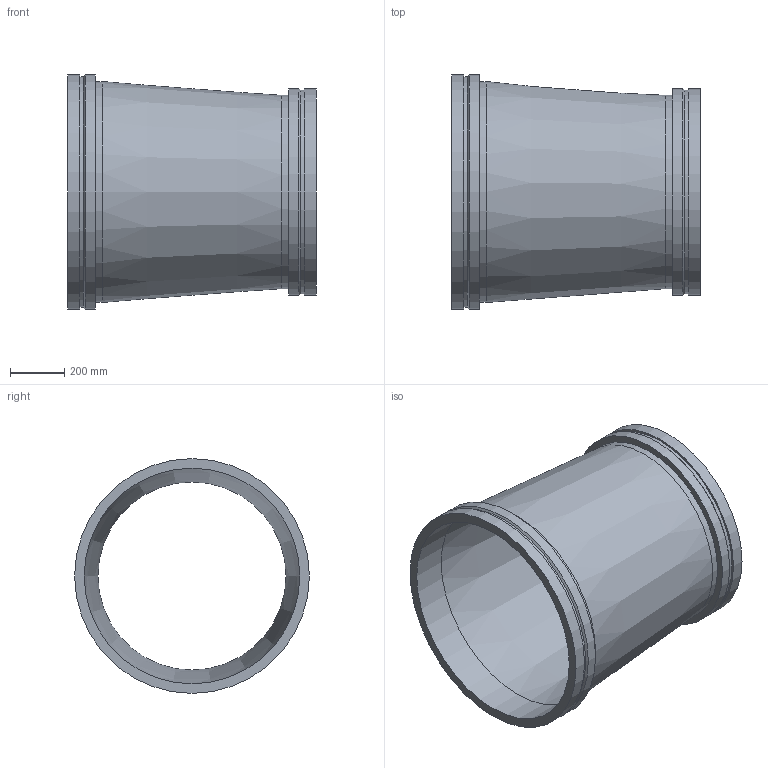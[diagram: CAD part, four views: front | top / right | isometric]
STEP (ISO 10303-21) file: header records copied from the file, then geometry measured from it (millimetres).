
FILE_DESCRIPTION(/* description */ ('VIC REDUCER CONCENTRIC No W50 VR','CAx-IF Rec.Pracs.---Representation and Presentation of Product Manufacturing Information (PMI)---4.0---2014-10-13'),/* implementation_level */ '2;1');
FILE_NAME(/* name */ 'C:\Users\kkamble\AppData\Roaming\Autodesk\ApplicationPlugins\Back Up\Victaulic_Vic-Ring_Reducer Concentric_No W50 VR (AGR)\Victaulic_Vic-Ring_Reducer Concentric_No W50 VR (AGR)_32.0x28.0 (800x700).stp',/* time_stamp */ '2020-09-10T11:46:51+05:00',/* author */ ('cps_temp'),/* organization */ ('Victaulic'),/* preprocessor_version */ 'ST-DEVELOPER v17.2',/* originating_system */ 'Autodesk Inventor 2019',/* authorisation */ '');
FILE_SCHEMA (('AP242_MANAGED_MODEL_BASED_3D_ENGINEERING_MIM_LF { 1 0 10303 442 1 1 4 }'));
Length unit declared in the file: inch
Products named in the file (1): W50 VR-32.0x28.0
Bounding box: 914.4 x 863.6 x 863.6 mm (x, y, z)
Volume: 32747265 mm3; surface area: 4713455.3 mm2
Topology: 1 solids, 1 shells, 20 faces, 54 edges, 40 vertices
Faces by surface type: cylinder 10, plane 6, cone 4
Full cylindrical faces by diameter (mm): 692.15 x1, 711.2 x1, 747.522 x1, 762 x2, 793.75 x1, 812.8 x1, 849.122 x1, 863.6 x2
Entity records: 830 total; most frequent: DIRECTION 162, CARTESIAN_POINT 132, ORIENTED_EDGE 108, AXIS2_PLACEMENT_3D 74, EDGE_CURVE 54, CIRCLE 40, VERTEX_POINT 40, EDGE_LOOP 26
